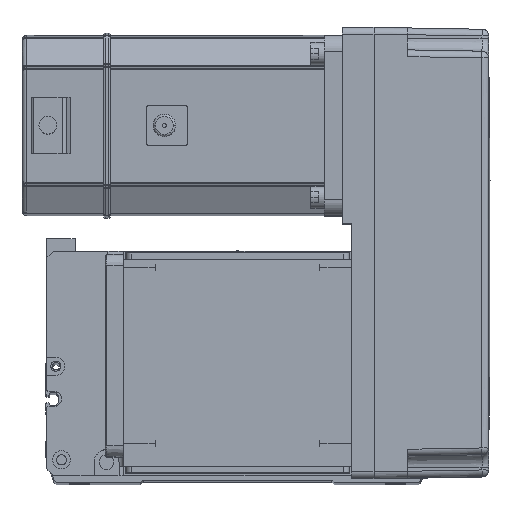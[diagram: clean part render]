
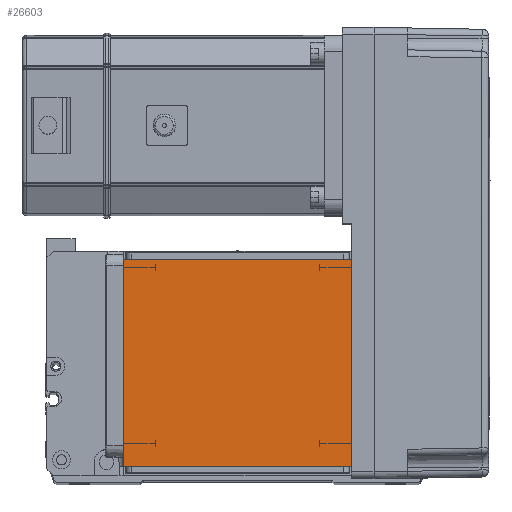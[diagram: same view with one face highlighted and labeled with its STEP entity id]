
A CAD part, top view. The second image highlights one B-rep face of the part: STEP entity #26603.
In plain terms, the highlighted planar face has unit normal (0, 0, 1).
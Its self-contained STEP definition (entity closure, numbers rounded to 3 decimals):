
#307 = VERTEX_POINT ( 'NONE', #4623 ) ;
#745 = ORIENTED_EDGE ( 'NONE', *, *, #10955, .F. ) ;
#910 = CARTESIAN_POINT ( 'NONE',  ( 50.5, 111.5, 115. ) ) ;
#3711 = VECTOR ( 'NONE', #40126, 1000. ) ;
#3721 = VECTOR ( 'NONE', #23541, 1000. ) ;
#4085 = CARTESIAN_POINT ( 'NONE',  ( -70.004, 20., 115. ) ) ;
#4623 = CARTESIAN_POINT ( 'NONE',  ( 50.5, 20., 115. ) ) ;
#6784 = VERTEX_POINT ( 'NONE', #910 ) ;
#10955 = EDGE_CURVE ( 'NONE', #307, #29970, #24420, .T. ) ;
#12651 = CARTESIAN_POINT ( 'NONE',  ( -50.5, 111.5, 115. ) ) ;
#13272 = FACE_OUTER_BOUND ( 'NONE', #22504, .T. ) ;
#18900 = EDGE_CURVE ( 'NONE', #34992, #6784, #25511, .T. ) ;
#22504 = EDGE_LOOP ( 'NONE', ( #27102, #45862, #745, #30634 ) ) ;
#23514 = PLANE ( 'NONE',  #52155 ) ;
#23541 = DIRECTION ( 'NONE',  ( 0., -1., 0. ) ) ;
#24420 = LINE ( 'NONE', #4085, #56477 ) ;
#25511 = LINE ( 'NONE', #49457, #3711 ) ;
#25963 = EDGE_CURVE ( 'NONE', #307, #6784, #39985, .T. ) ;
#26603 = ADVANCED_FACE ( 'NONE', ( #13272 ), #23514, .T. ) ;
#27102 = ORIENTED_EDGE ( 'NONE', *, *, #18900, .F. ) ;
#28247 = CARTESIAN_POINT ( 'NONE',  ( 50.5, 122., 115. ) ) ;
#29970 = VERTEX_POINT ( 'NONE', #34328 ) ;
#30634 = ORIENTED_EDGE ( 'NONE', *, *, #25963, .T. ) ;
#32598 = DIRECTION ( 'NONE',  ( 0., 1., 0. ) ) ;
#34328 = CARTESIAN_POINT ( 'NONE',  ( -50.5, 20., 115. ) ) ;
#34589 = DIRECTION ( 'NONE',  ( -1., 0., 0. ) ) ;
#34992 = VERTEX_POINT ( 'NONE', #12651 ) ;
#36523 = CARTESIAN_POINT ( 'NONE',  ( 0., 0., 115. ) ) ;
#39985 = LINE ( 'NONE', #28247, #42716 ) ;
#40126 = DIRECTION ( 'NONE',  ( 1., 0., 0. ) ) ;
#40695 = DIRECTION ( 'NONE',  ( 1., 0., 0. ) ) ;
#40933 = CARTESIAN_POINT ( 'NONE',  ( -50.5, 122., 115. ) ) ;
#42716 = VECTOR ( 'NONE', #32598, 1000. ) ;
#43244 = LINE ( 'NONE', #40933, #3721 ) ;
#45862 = ORIENTED_EDGE ( 'NONE', *, *, #55882, .T. ) ;
#49457 = CARTESIAN_POINT ( 'NONE',  ( -70.004, 111.5, 115. ) ) ;
#49460 = DIRECTION ( 'NONE',  ( 0., 0., 1. ) ) ;
#52155 = AXIS2_PLACEMENT_3D ( 'NONE', #36523, #49460, #40695 ) ;
#55882 = EDGE_CURVE ( 'NONE', #34992, #29970, #43244, .T. ) ;
#56477 = VECTOR ( 'NONE', #34589, 1000. ) ;
